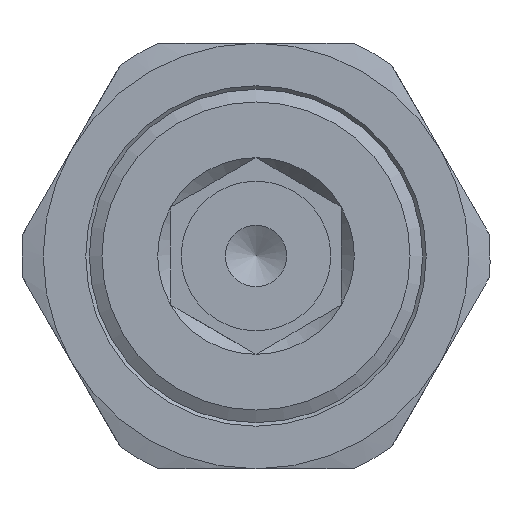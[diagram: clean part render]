
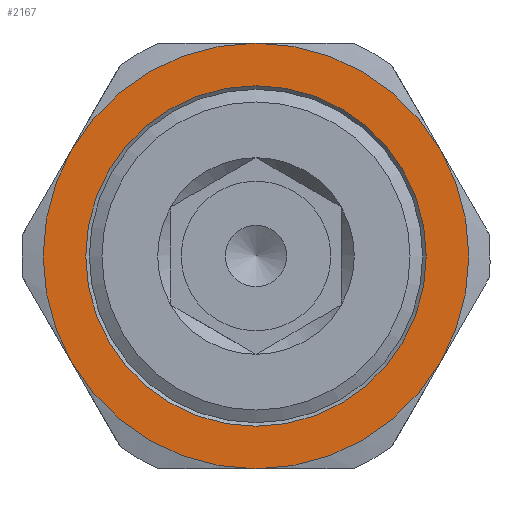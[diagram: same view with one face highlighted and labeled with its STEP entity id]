
A CAD part, left-side view. The second image highlights one B-rep face of the part: STEP entity #2167.
In plain terms, the highlighted planar face has unit normal (-1, 0, 0).
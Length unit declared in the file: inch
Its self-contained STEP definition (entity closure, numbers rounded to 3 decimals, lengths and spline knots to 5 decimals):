
#37=PLANE('',#2437);
#73=FACE_BOUND('',#656,.T.);
#504=FACE_OUTER_BOUND('',#655,.T.);
#655=EDGE_LOOP('',(#1768,#1769,#1770,#1771,#1772,#1773));
#656=EDGE_LOOP('',(#1774));
#719=CIRCLE('',#2260,0.5);
#810=CIRCLE('',#2438,0.625);
#811=CIRCLE('',#2439,0.625);
#812=CIRCLE('',#2440,0.625);
#813=CIRCLE('',#2441,0.625);
#814=CIRCLE('',#2442,0.625);
#815=CIRCLE('',#2443,0.625);
#879=VERTEX_POINT('',#3239);
#1004=VERTEX_POINT('',#4102);
#1005=VERTEX_POINT('',#4103);
#1006=VERTEX_POINT('',#4105);
#1007=VERTEX_POINT('',#4107);
#1008=VERTEX_POINT('',#4109);
#1009=VERTEX_POINT('',#4111);
#1073=EDGE_CURVE('',#879,#879,#719,.T.);
#1272=EDGE_CURVE('',#1004,#1005,#810,.T.);
#1273=EDGE_CURVE('',#1005,#1006,#811,.T.);
#1274=EDGE_CURVE('',#1006,#1007,#812,.T.);
#1275=EDGE_CURVE('',#1007,#1008,#813,.T.);
#1276=EDGE_CURVE('',#1008,#1009,#814,.T.);
#1277=EDGE_CURVE('',#1009,#1004,#815,.T.);
#1768=ORIENTED_EDGE('',*,*,#1272,.T.);
#1769=ORIENTED_EDGE('',*,*,#1273,.T.);
#1770=ORIENTED_EDGE('',*,*,#1274,.T.);
#1771=ORIENTED_EDGE('',*,*,#1275,.T.);
#1772=ORIENTED_EDGE('',*,*,#1276,.T.);
#1773=ORIENTED_EDGE('',*,*,#1277,.T.);
#1774=ORIENTED_EDGE('',*,*,#1073,.T.);
#2167=ADVANCED_FACE('',(#504,#73),#37,.T.);
#2260=AXIS2_PLACEMENT_3D('',#3241,#2597,#2598);
#2437=AXIS2_PLACEMENT_3D('',#4101,#3005,#3006);
#2438=AXIS2_PLACEMENT_3D('',#4104,#3007,#3008);
#2439=AXIS2_PLACEMENT_3D('',#4106,#3009,#3010);
#2440=AXIS2_PLACEMENT_3D('',#4108,#3011,#3012);
#2441=AXIS2_PLACEMENT_3D('',#4110,#3013,#3014);
#2442=AXIS2_PLACEMENT_3D('',#4112,#3015,#3016);
#2443=AXIS2_PLACEMENT_3D('',#4113,#3017,#3018);
#2597=DIRECTION('center_axis',(1.,0.,0.));
#2598=DIRECTION('ref_axis',(0.,0.,1.));
#3005=DIRECTION('center_axis',(-1.,0.,0.));
#3006=DIRECTION('ref_axis',(0.,-1.,0.));
#3007=DIRECTION('center_axis',(-1.,0.,0.));
#3008=DIRECTION('ref_axis',(0.,0.,-1.));
#3009=DIRECTION('center_axis',(-1.,0.,0.));
#3010=DIRECTION('ref_axis',(0.,0.,-1.));
#3011=DIRECTION('center_axis',(-1.,0.,0.));
#3012=DIRECTION('ref_axis',(0.,0.,-1.));
#3013=DIRECTION('center_axis',(-1.,0.,0.));
#3014=DIRECTION('ref_axis',(0.,0.,-1.));
#3015=DIRECTION('center_axis',(-1.,0.,0.));
#3016=DIRECTION('ref_axis',(0.,0.,-1.));
#3017=DIRECTION('center_axis',(-1.,0.,0.));
#3018=DIRECTION('ref_axis',(0.,0.,-1.));
#3239=CARTESIAN_POINT('',(-0.87794,0.,-0.46496));
#3241=CARTESIAN_POINT('Origin',(-0.87794,0.,0.03504));
#4101=CARTESIAN_POINT('Origin',(-0.87794,-0.08684,0.03504));
#4102=CARTESIAN_POINT('',(-0.87794,0.54127,-0.27746));
#4103=CARTESIAN_POINT('',(-0.87794,0.,-0.58996));
#4104=CARTESIAN_POINT('Origin',(-0.87794,0.,0.03504));
#4105=CARTESIAN_POINT('',(-0.87794,-0.54127,-0.27746));
#4106=CARTESIAN_POINT('Origin',(-0.87794,0.,0.03504));
#4107=CARTESIAN_POINT('',(-0.87794,-0.54127,0.34754));
#4108=CARTESIAN_POINT('Origin',(-0.87794,0.,0.03504));
#4109=CARTESIAN_POINT('',(-0.87794,0.,0.66004));
#4110=CARTESIAN_POINT('Origin',(-0.87794,0.,0.03504));
#4111=CARTESIAN_POINT('',(-0.87794,0.54127,0.34754));
#4112=CARTESIAN_POINT('Origin',(-0.87794,0.,0.03504));
#4113=CARTESIAN_POINT('Origin',(-0.87794,0.,0.03504));
